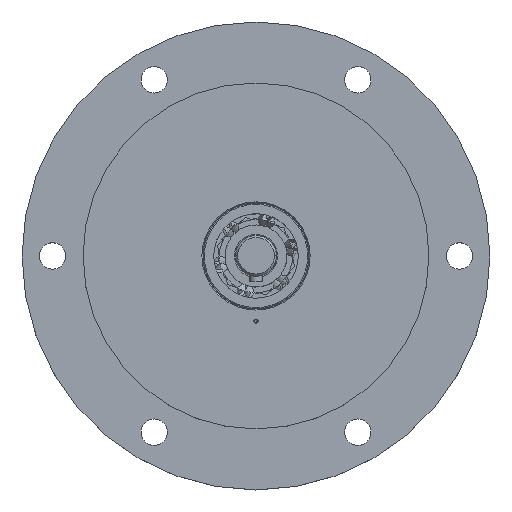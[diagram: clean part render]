
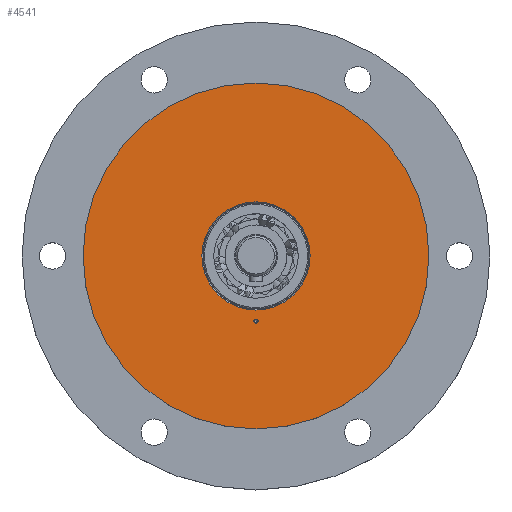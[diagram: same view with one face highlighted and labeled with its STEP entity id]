
A CAD part, top view. The second image highlights one B-rep face of the part: STEP entity #4541.
In plain terms, the highlighted planar face has unit normal (0, 0, 1) as drawn and (0, 0, -1) by its records, which use the part's own axes.
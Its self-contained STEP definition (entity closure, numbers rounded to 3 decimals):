
#1405=CARTESIAN_POINT('',(42.5,0.,0.0));
#1406=VERTEX_POINT('',#1405);
#1415=CARTESIAN_POINT('',(-42.5,0.,0.0));
#1416=VERTEX_POINT('',#1415);
#1417=CARTESIAN_POINT('',(0.0,0.0,0.0));
#1418=DIRECTION('',(0.0,0.0,-1.0));
#1419=DIRECTION('',(1.0,0.0,0.0));
#1420=AXIS2_PLACEMENT_3D('',#1417,#1418,#1419);
#1421=CIRCLE('',#1420,42.5);
#1422=EDGE_CURVE('',#1416,#1406,#1421,.T.);
#2560=CARTESIAN_POINT('',(-0.5,16.0,0.0));
#2561=VERTEX_POINT('',#2560);
#2577=CARTESIAN_POINT('',(0.5,16.0,0.0));
#2578=VERTEX_POINT('',#2577);
#2585=CARTESIAN_POINT('',(0.0,16.0,0.0));
#2586=DIRECTION('',(0.0,0.0,1.0));
#2587=DIRECTION('',(-1.0,0.0,0.0));
#2588=AXIS2_PLACEMENT_3D('',#2585,#2586,#2587);
#2589=CIRCLE('',#2588,0.5);
#2590=EDGE_CURVE('',#2561,#2578,#2589,.T.);
#4401=CARTESIAN_POINT('',(13.3,0.,0.0));
#4402=VERTEX_POINT('',#4401);
#4410=CARTESIAN_POINT('',(-13.3,0.,0.0));
#4411=VERTEX_POINT('',#4410);
#4418=CARTESIAN_POINT('',(0.0,0.0,0.0));
#4419=DIRECTION('',(0.0,0.0,-1.0));
#4420=DIRECTION('',(1.0,0.0,0.0));
#4421=AXIS2_PLACEMENT_3D('',#4418,#4419,#4420);
#4422=CIRCLE('',#4421,13.3);
#4423=EDGE_CURVE('',#4411,#4402,#4422,.T.);
#4434=CARTESIAN_POINT('',(0.0,0.0,0.0));
#4435=DIRECTION('',(0.0,0.0,-1.0));
#4436=DIRECTION('',(1.0,0.0,0.0));
#4437=AXIS2_PLACEMENT_3D('',#4434,#4435,#4436);
#4438=CIRCLE('',#4437,13.3);
#4439=EDGE_CURVE('',#4402,#4411,#4438,.T.);
#4512=CARTESIAN_POINT('',(0.0,0.0,0.0));
#4513=DIRECTION('',(0.0,0.0,-1.0));
#4514=DIRECTION('',(-1.0,0.0,0.0));
#4515=AXIS2_PLACEMENT_3D('',#4512,#4513,#4514);
#4516=PLANE('',#4515);
#4517=ORIENTED_EDGE('',*,*,#1422,.T.);
#4518=CARTESIAN_POINT('',(0.0,0.0,0.0));
#4519=DIRECTION('',(0.0,0.0,-1.0));
#4520=DIRECTION('',(1.0,0.0,0.0));
#4521=AXIS2_PLACEMENT_3D('',#4518,#4519,#4520);
#4522=CIRCLE('',#4521,42.5);
#4523=EDGE_CURVE('',#1406,#1416,#4522,.T.);
#4524=ORIENTED_EDGE('',*,*,#4523,.T.);
#4525=EDGE_LOOP('',(#4517,#4524));
#4526=FACE_OUTER_BOUND('',#4525,.T.);
#4527=ORIENTED_EDGE('',*,*,#2590,.T.);
#4528=CARTESIAN_POINT('',(0.0,16.0,0.0));
#4529=DIRECTION('',(0.0,0.0,1.0));
#4530=DIRECTION('',(-1.0,0.0,0.0));
#4531=AXIS2_PLACEMENT_3D('',#4528,#4529,#4530);
#4532=CIRCLE('',#4531,0.5);
#4533=EDGE_CURVE('',#2578,#2561,#4532,.T.);
#4534=ORIENTED_EDGE('',*,*,#4533,.T.);
#4535=EDGE_LOOP('',(#4527,#4534));
#4536=FACE_BOUND('',#4535,.T.);
#4537=ORIENTED_EDGE('',*,*,#4423,.F.);
#4538=ORIENTED_EDGE('',*,*,#4439,.F.);
#4539=EDGE_LOOP('',(#4537,#4538));
#4540=FACE_BOUND('',#4539,.T.);
#4541=ADVANCED_FACE('',(#4526,#4536,#4540),#4516,.T.);
